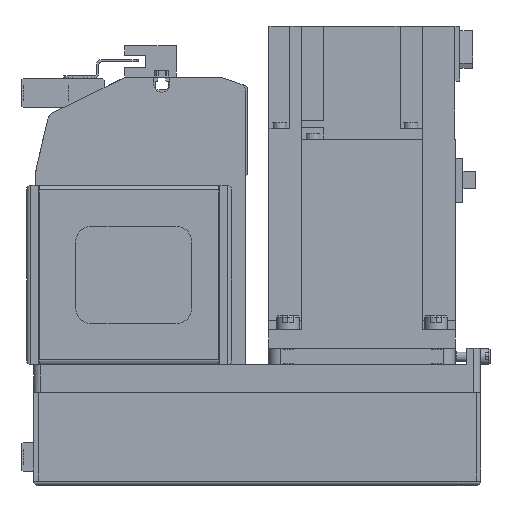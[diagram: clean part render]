
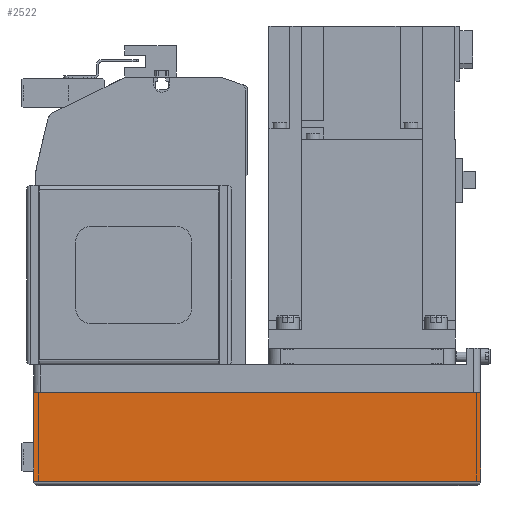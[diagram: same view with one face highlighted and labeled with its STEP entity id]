
A CAD part, left-side view. The second image highlights one B-rep face of the part: STEP entity #2522.
In plain terms, the highlighted planar face has unit normal (-1, 0, 0) as drawn and (0, 1, 0) by its records, which use the part's own axes.
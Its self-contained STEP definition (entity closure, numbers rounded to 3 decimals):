
#2522 = ADVANCED_FACE( '', ( #5553 ), #5554, .T. );
#5553 = FACE_OUTER_BOUND( '', #9047, .T. );
#5554 = PLANE( '', #9048 );
#9047 = EDGE_LOOP( '', ( #16075, #16076, #16077, #16078 ) );
#9048 = AXIS2_PLACEMENT_3D( '', #16079, #16080, #16081 );
#16075 = ORIENTED_EDGE( '', *, *, #20648, .F. );
#16076 = ORIENTED_EDGE( '', *, *, #22405, .F. );
#16077 = ORIENTED_EDGE( '', *, *, #22286, .T. );
#16078 = ORIENTED_EDGE( '', *, *, #20552, .T. );
#16079 = CARTESIAN_POINT( '', ( -192., 40., -50. ) );
#16080 = DIRECTION( '', ( 0., 1., 0. ) );
#16081 = DIRECTION( '', ( 0., 0., 1. ) );
#20552 = EDGE_CURVE( '', #24807, #24805, #24808, .T. );
#20648 = EDGE_CURVE( '', #24968, #24805, #24970, .T. );
#22286 = EDGE_CURVE( '', #27467, #24807, #27472, .T. );
#22405 = EDGE_CURVE( '', #27467, #24968, #27630, .T. );
#24805 = VERTEX_POINT( '', #30921 );
#24807 = VERTEX_POINT( '', #30924 );
#24808 = LINE( '', #30925, #30926 );
#24968 = VERTEX_POINT( '', #31193 );
#24970 = LINE( '', #31196, #31197 );
#27467 = VERTEX_POINT( '', #34909 );
#27472 = LINE( '', #34917, #34918 );
#27630 = LINE( '', #35280, #35281 );
#30921 = CARTESIAN_POINT( '', ( 0., 40., -12.1 ) );
#30924 = CARTESIAN_POINT( '', ( -192., 40., -12.1 ) );
#30925 = CARTESIAN_POINT( '', ( -192., 40., -12.1 ) );
#30926 = VECTOR( '', #38002, 1000. );
#31193 = CARTESIAN_POINT( '', ( 0., 40., -50. ) );
#31196 = CARTESIAN_POINT( '', ( 0., 40., -50. ) );
#31197 = VECTOR( '', #38114, 1000. );
#34909 = CARTESIAN_POINT( '', ( -192., 40., -50. ) );
#34917 = CARTESIAN_POINT( '', ( -192., 40., -50. ) );
#34918 = VECTOR( '', #40143, 1000. );
#35280 = CARTESIAN_POINT( '', ( -192., 40., -50. ) );
#35281 = VECTOR( '', #40269, 1000. );
#38002 = DIRECTION( '', ( 1., 0., 0. ) );
#38114 = DIRECTION( '', ( 0., 0., 1. ) );
#40143 = DIRECTION( '', ( 0., 0., 1. ) );
#40269 = DIRECTION( '', ( 1., 0., 0. ) );
